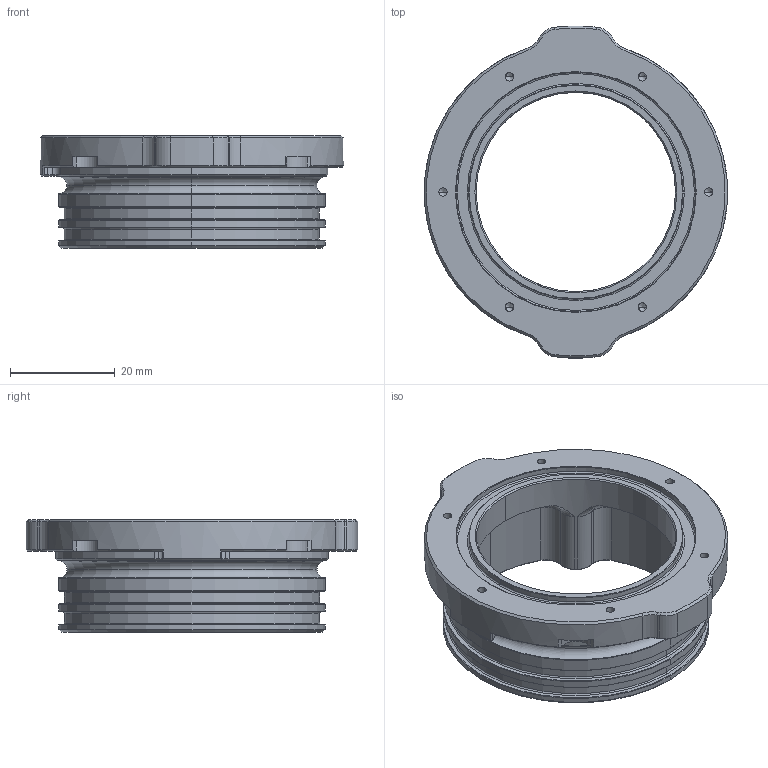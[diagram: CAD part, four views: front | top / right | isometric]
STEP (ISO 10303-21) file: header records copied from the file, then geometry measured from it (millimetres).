
FILE_DESCRIPTION (( 'STEP AP214' ), '1' );
FILE_NAME ('WTE2-M-LOCKING-FLANGE-R1.STEP', '2019-11-12T19:01:26', ( '' ), ( '' ), 'SwSTEP 2.0', 'SolidWorks 2020', '' );
FILE_SCHEMA (( 'AUTOMOTIVE_DESIGN' ));
Length unit declared in the file: millimetre
Products named in the file (1): WTE2-M-LOCKING-FLANGE-R1
Bounding box: 57.94 x 63.44 x 21.5 mm (x, y, z)
Volume: 15142.1 mm3; surface area: 10983.5 mm2
Topology: 1 solids, 1 shells, 284 faces, 686 edges, 401 vertices
Faces by surface type: cone 106, cylinder 91, torus 47, plane 40
Entity records: 8511 total; most frequent: DIRECTION 1595, CARTESIAN_POINT 1494, ORIENTED_EDGE 1332, AXIS2_PLACEMENT_3D 670, EDGE_CURVE 666, VERTEX_POINT 401, CIRCLE 385, EDGE_LOOP 303
